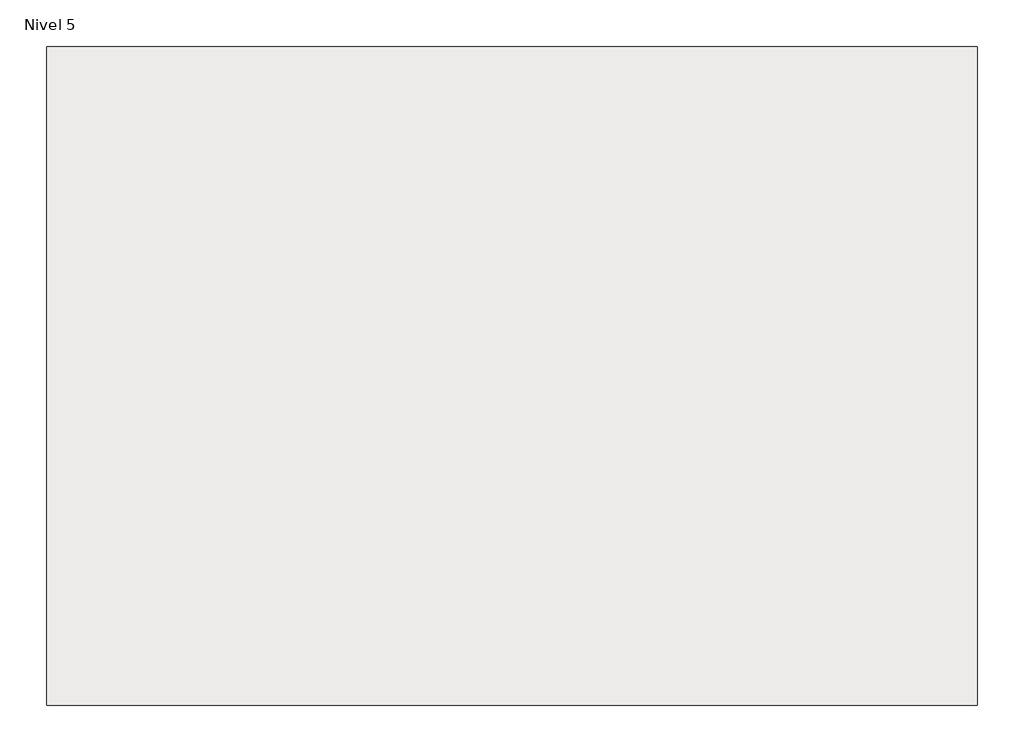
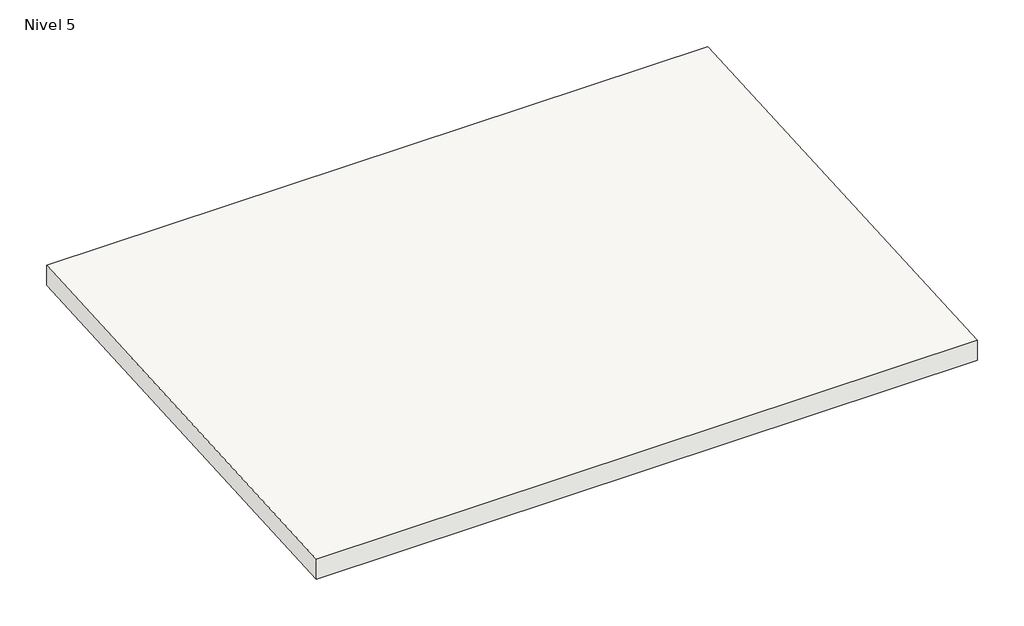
# One storey: 1 roof.
"""IFC4 building model written with IfcOpenShell, lengths in millimetres."""

from ifc_helpers import new_model, si_unit, frame, origin, place, context, project, spatial, polyline, outline, extrude, element, save

model = new_model("IFC4")

# Units and contexts
model_context = context("Model", 3, world=origin())
ifc_project = project(units=[si_unit("LENGTHUNIT", "METRE", prefix="MILLI")], contexts=[model_context])

# Site, building, storey
site = spatial("IfcSite", under=ifc_project)
building = spatial("IfcBuilding", under=site)
storey = spatial("IfcBuildingStorey", under=building, Name="Nivel 5", Elevation=14000.0)

# Roof
placement = place(None, origin())
element("IfcRoof", 1, ObjectType="Generic Roof - 300mm", at=placement, inside=storey, context=model_context, shape_type="SweptSolid", body=[
    extrude(outline(polyline([(-4197.0090589, 14150.5048303), (2522.9909411, 14540.5177335), (2522.9909411, 14240.0129032), (-4197.0090589, 13850.0), (-4197.0090589, 14150.5048303)])), frame((3069.2181942, 0.0, 0.0), z_axis=(1.0, 0.0, 0.0), x_axis=(0.0, 1.0, 0.0)), (0.0, 0.0, 1.0), 9500.0),
])

save(model, "model.ifc")
